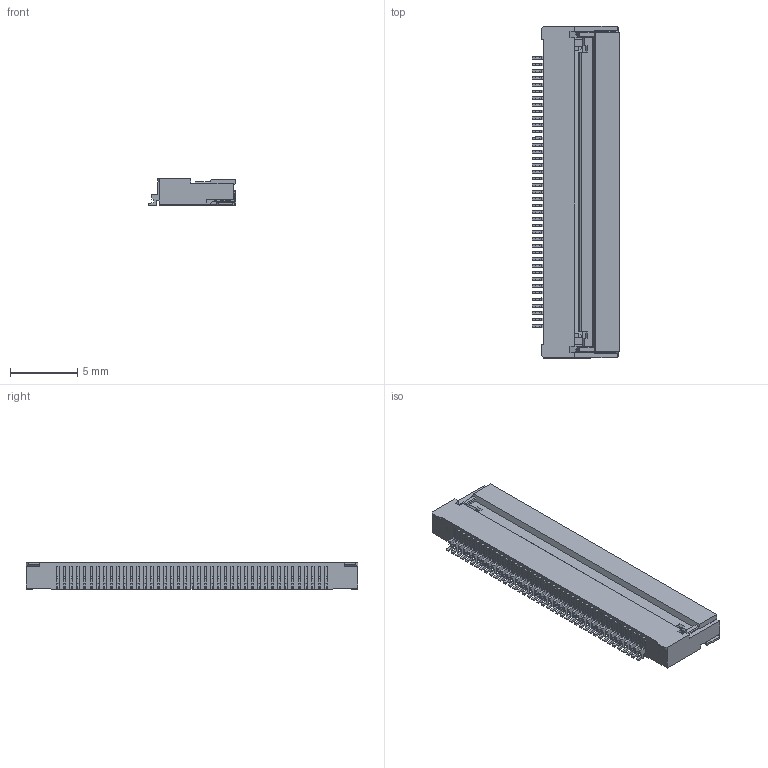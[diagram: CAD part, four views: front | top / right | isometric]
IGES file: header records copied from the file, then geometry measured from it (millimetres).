
Start section: SolidWorks IGES file using analytic representation for surfaces
Bounding box: 6.5 x 24.74 x 2 mm (x, y, z)
Surface area: 692.1 mm2 (no closed solid volume)
Topology: 0 solids, 0 shells, 996 faces, 6643 edges, 6643 vertices
Faces by surface type: bspline 724, revolution 272
